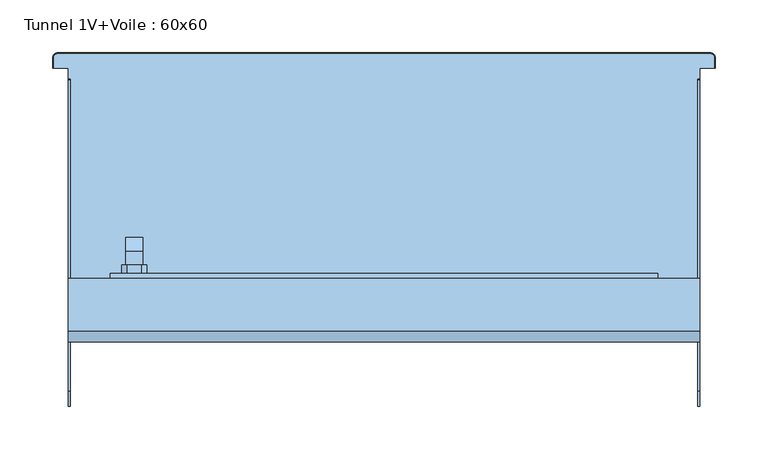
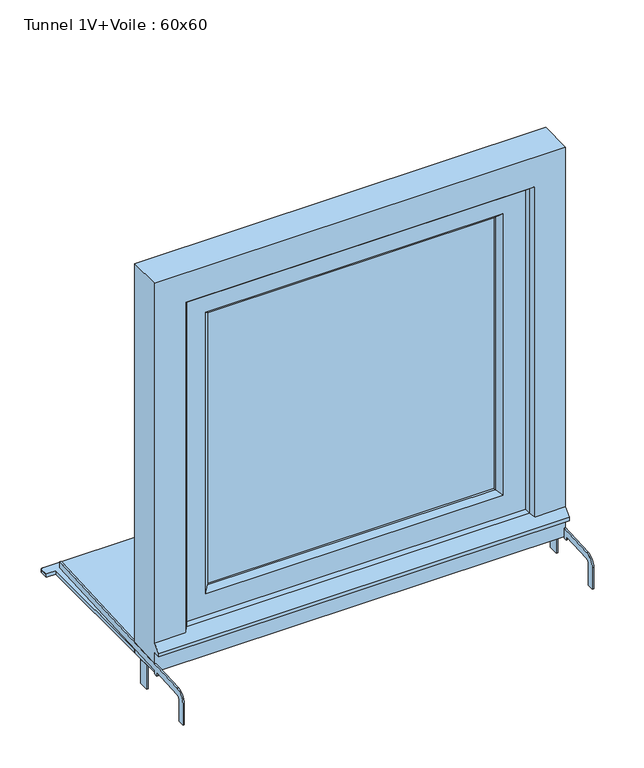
"""IFC4 building model written with IfcOpenShell, lengths in millimetres: window geometry, Tunnel 1V+Voile : 60x60."""

from ifc_helpers import new_model, si_unit, point, frame, frame_2d, origin, place, context, project, spatial, polyline, circle_curve, trimmed, segment, composite_curve, outline, extrude, faceted_brep, source, transform, mapped, element, save
from ifc_brep_helpers import plane_surface, cylinder_surface, revolved_surface, advanced_brep


def tunnel_1v_voile_60x60_87597c4a(model_context):
    return source(origin(), model_context, "Body", "SolidModel", [
        faceted_brep([(-245.5, -87.0, 1306.0), (-245.5, -87.0, 1294.0), (-229.5, -87.0, 1294.0), (-229.5, -87.0, 1306.0), (-229.5, -74.5147186, 1306.0), (-245.5, -74.5147186, 1306.0), (-229.5, -79.4852814, 1294.0), (-229.5, -73.0, 1287.5147186), (-229.5, -73.0, 1287.2282668), (-229.5, -70.2419861, 1208.5355339), (-229.5, -61.0, 1208.5355339), (-229.5, -61.0, 1292.4852814), (-245.5, -79.4852814, 1294.0), (-245.5, -61.0, 1292.4852814), (-245.5, -61.0, 1208.5355339), (-245.5, -70.2419861, 1208.5355339), (-245.5, -72.9900091, 1287.2286157), (-245.5, -73.0, 1287.5147186), (-233.0355339, -61.0, 1205.0), (-233.0355339, -70.1185225, 1205.0), (-241.9644661, -70.1185225, 1205.0), (-241.9644661, -61.0, 1205.0)], [[[0, 1, 2, 3]], [[3, 4, 5, 0]], [[2, 6, 7, 8, 9, 10, 11, 4, 3]], [[1, 12, 6, 2]], [[0, 5, 13, 14, 15, 16, 17, 12, 1]], [[4, 11, 13, 5]], [[6, 12, 17, 7]], [[18, 19, 20, 21]], [[11, 10, 18, 21, 14, 13]], [[17, 16, 8, 7]], [[16, 15, 20, 19, 9, 8]], [[9, 19, 18, 10]], [[14, 21, 20, 15]]]),
        extrude(outline(polyline([(1330.0, -244.5), (1325.0, -249.5), (1275.0, -249.5), (1270.0, -244.5), (1270.0, -230.5), (1275.0, -225.5), (1325.0, -225.5), (1330.0, -230.5), (1330.0, -244.5)])), frame((0.0, -95.0, 0.0), z_axis=(0.0, 1.0, 0.0), x_axis=(0.0, 0.0, 1.0)), (0.0, 0.0, 1.0), 8.0),
        extrude(outline(polyline([(-115.0, 799.2138833), (-115.0, 762.0), (-130.0, 762.0), (-130.0, 798.4277666), (-115.0, 799.2138833)])), frame((-300.0, 0.0, 0.0), z_axis=(1.0, 0.0, 0.0), x_axis=(0.0, 1.0, 0.0)), (0.0, 0.0, 1.0), 2.0),
        extrude(outline(polyline([(-130.0, 798.4277666), (-115.0, 799.2138833), (-115.0, 762.0), (-130.0, 762.0), (-130.0, 798.4277666)])), frame((298.0, 0.0, 0.0), z_axis=(1.0, 0.0, 0.0), x_axis=(0.0, 1.0, 0.0)), (0.0, 0.0, 1.0), 2.0),
        extrude(outline(composite_curve([segment(polyline([(-221.5, 762.0), (-221.5, 795.1063906)]), True, "CONTINUOUS"), segment(trimmed(circle_curve(frame_2d((-206.5, 795.1063906)), 15.0), [point((-221.5, 795.1063906))], [point((-207.2850393, 810.0858337))], False, "CARTESIAN"), True, "CONTINUOUS"), segment(polyline([(-207.2850393, 810.0858337), (89.4766404, 825.6384543), (90.0, 815.6521589), (-150.0, 803.0742919), (-150.0, 797.379611), (-155.0, 797.1175721), (-155.0, 802.812253), (-206.7616798, 800.0995383)]), True, "CONTINUOUS"), segment(trimmed(circle_curve(frame_2d((-206.5, 795.1063906)), 5.0), [point((-206.7616798, 800.0995383))], [point((-211.5, 795.1063906))], True, "CARTESIAN"), True, "CONTINUOUS"), segment(polyline([(-211.5, 795.1063906), (-211.5, 762.0), (-221.5, 762.0)]), True, "CONTINUOUS")], self_intersect=False)), frame((298.0, 0.0, 0.0), z_axis=(1.0, 0.0, 0.0), x_axis=(0.0, 1.0, 0.0)), (0.0, 0.0, 1.0), 2.0),
        extrude(outline(composite_curve([segment(polyline([(-155.0, 797.1175721), (-155.0, 802.812253), (-206.7616798, 800.0995383)]), True, "CONTINUOUS"), segment(trimmed(circle_curve(frame_2d((-206.5, 795.1063906)), 5.0), [point((-206.7616798, 800.0995383))], [point((-211.5, 795.1063906))], True, "CARTESIAN"), True, "CONTINUOUS"), segment(polyline([(-211.5, 795.1063906), (-211.5, 762.0), (-221.5, 762.0), (-221.5, 795.1063906)]), True, "CONTINUOUS"), segment(trimmed(circle_curve(frame_2d((-206.5, 795.1063906)), 15.0), [point((-221.5, 795.1063906))], [point((-207.2850393, 810.0858337))], False, "CARTESIAN"), True, "CONTINUOUS"), segment(polyline([(-207.2850393, 810.0858337), (89.4766404, 825.6384543), (90.0, 815.6521589), (-150.0, 803.0742919), (-150.0, 797.379611), (-155.0, 797.1175721)]), True, "CONTINUOUS")], self_intersect=False)), frame((-300.0, 0.0, 0.0), z_axis=(1.0, 0.0, 0.0), x_axis=(0.0, 1.0, 0.0)), (0.0, 0.0, 1.0), 2.0),
        extrude(outline(polyline([(-210.0, -105.0), (210.0, -105.0), (210.0, -125.0), (-210.0, -125.0), (-210.0, -105.0)])), frame((0.0, 0.0, 890.0), z_axis=(0.0, 0.0, 1.0), x_axis=(1.0, 0.0, 0.0)), (0.0, 0.0, 1.0), 420.0),
        faceted_brep([(-260.0, -95.0, 840.0), (260.0, -95.0, 840.0), (260.0, -135.0, 840.0), (-260.0, -135.0, 840.0), (260.0, -95.0, 1360.0), (260.0, -135.0, 1360.0), (-260.0, -135.0, 1360.0), (217.0710678, -135.0, 1317.0710678), (217.0710678, -135.0, 882.9289322), (-217.0710678, -135.0, 882.9289322), (-217.0710678, -135.0, 1317.0710678), (-260.0, -95.0, 1360.0), (217.0710678, -95.0, 882.9289322), (217.0710678, -95.0, 1317.0710678), (-217.0710678, -95.0, 1317.0710678), (-217.0710678, -95.0, 882.9289322), (-210.0, -102.0710678, 890.0), (210.0, -102.0710678, 890.0), (210.0, -102.0710678, 1310.0), (210.0, -127.9289322, 890.0), (210.0, -127.9289322, 1310.0), (-210.0, -127.9289322, 890.0), (-210.0, -102.0710678, 1310.0), (-210.0, -127.9289322, 1310.0)], [[[0, 1, 2, 3]], [[1, 4, 5, 2]], [[2, 5, 6, 3], [7, 8, 9, 10]], [[4, 1, 0, 11], [12, 13, 14, 15]], [[16, 17, 12, 15]], [[17, 18, 13, 12]], [[19, 20, 18, 17]], [[9, 8, 19, 21]], [[8, 7, 20, 19]], [[11, 0, 3, 6]], [[22, 16, 15, 14]], [[23, 21, 16, 22]], [[10, 9, 21, 23]], [[21, 19, 17, 16]], [[4, 11, 6, 5]], [[18, 22, 14, 13]], [[7, 10, 23, 20]], [[20, 23, 22, 18]]]),
        faceted_brep([(300.0, -150.0, 800.0), (300.0, -100.0, 800.0), (300.0, -100.0, 1400.0), (300.0, -150.0, 1400.0), (300.0, -150.0, 845.0), (300.0, -160.0, 835.0), (300.0, -160.0, 830.0), (300.0, -150.0, 830.0), (-300.0, -150.0, 830.0), (-300.0, -150.0, 800.0), (-300.0, -160.0, 830.0), (-300.0, -160.0, 835.0), (255.0, -150.0, 845.0), (250.0, -145.0, 850.0), (-250.0, -145.0, 850.0), (-255.0, -150.0, 845.0), (-300.0, -150.0, 845.0), (-300.0, -150.0, 1400.0), (-255.0, -150.0, 1355.0), (255.0, -150.0, 1355.0), (-300.0, -100.0, 800.0), (-300.0, -100.0, 1400.0), (260.0, -100.0, 840.0), (260.0, -100.0, 1360.0), (-260.0, -100.0, 1360.0), (-260.0, -100.0, 840.0), (-260.0, -135.0, 840.0), (260.0, -135.0, 840.0), (-260.0, -135.0, 1360.0), (260.0, -135.0, 1360.0), (250.0, -135.0, 850.0), (250.0, -135.0, 1350.0), (-250.0, -135.0, 1350.0), (-250.0, -135.0, 850.0), (-250.0, -145.0, 1350.0), (250.0, -145.0, 1350.0)], [[[0, 1, 2, 3, 4, 5, 6, 7]], [[7, 8, 9, 0]], [[6, 10, 8, 7]], [[5, 11, 10, 6]], [[5, 4, 12, 13, 14, 15, 16, 11]], [[17, 16, 15, 18, 19, 12, 4, 3]], [[1, 20, 21, 2], [22, 23, 24, 25]], [[0, 9, 20, 1]], [[9, 8, 10, 11, 16, 17, 21, 20]], [[25, 26, 27, 22]], [[26, 25, 24, 28]], [[22, 27, 29, 23]], [[29, 27, 26, 28], [30, 31, 32, 33]], [[33, 14, 13, 30]], [[34, 14, 33, 32]], [[31, 30, 13, 35]], [[35, 13, 12, 19]], [[18, 15, 14, 34]], [[28, 24, 23, 29]], [[3, 2, 21, 17]], [[31, 35, 34, 32]], [[18, 34, 35, 19]]]),
        advanced_brep(
        [(300.0, 100.0, 805.0), (313.9971508, 100.0, 805.0), (313.9971508, 110.0, 805.0), (310.0, 113.9971508, 805.0), (-310.0, 113.9971508, 805.0), (-313.9971508, 110.0, 805.0), (-313.9971508, 100.0, 805.0), (-300.0, 100.0, 805.0), (-300.0, -100.0, 805.0), (300.0, -100.0, 805.0), (-300.0, 100.0, 800.0), (-313.9971508, 100.0, 800.0), (-313.9971508, 110.0, 800.0), (-310.0, 113.9971508, 800.0), (310.0, 113.9971508, 800.0), (313.9971508, 110.0, 800.0), (313.9971508, 100.0, 800.0), (300.0, 100.0, 800.0), (300.0, -100.0, 800.0), (-300.0, -100.0, 800.0), (-315.0, 110.0, 801.0028492), (-315.0, 100.0, 801.0028492), (-315.0, 100.0, 803.9971508), (-315.0, 110.0, 803.9971508), (315.0, 100.0, 801.0028492), (315.0, 100.0, 803.9971508), (315.0, 110.0, 801.0028492), (315.0, 110.0, 803.9971508), (310.0, 115.0, 801.0028492), (-310.0, 115.0, 801.0028492), (-310.0, 115.0, 803.9971508), (310.0, 115.0, 803.9971508)],
        [
            (0, 1),
            (1, 2),
            (2, 3, circle_curve(frame((310.0, 110.0, 805.0), z_axis=(0.0, 0.0, 1.0), x_axis=(0.0, 1.0, 0.0)), 3.9971508)),
            (3, 4),
            (4, 5, circle_curve(frame((-310.0, 110.0, 805.0), z_axis=(0.0, 0.0, 1.0), x_axis=(-1.0, 0.0, 0.0)), 3.9971508)),
            (5, 6),
            (6, 7),
            (7, 8),
            (8, 9),
            (9, 0),
            (10, 11),
            (11, 12),
            (12, 13, circle_curve(frame((-310.0, 110.0, 800.0), z_axis=(0.0, 0.0, -1.0), x_axis=(-1.0, 0.0, 0.0)), 3.9971508)),
            (13, 14),
            (14, 15, circle_curve(frame((310.0, 110.0, 800.0), z_axis=(0.0, 0.0, -1.0), x_axis=(0.0, 1.0, 0.0)), 3.9971508)),
            (15, 16),
            (16, 17),
            (17, 18),
            (18, 19),
            (19, 10),
            (20, 21),
            (21, 22),
            (22, 23),
            (23, 20),
            (6, 22),
            (21, 11),
            (10, 7),
            (19, 8),
            (18, 9),
            (17, 0),
            (16, 24),
            (24, 25),
            (25, 1),
            (24, 26),
            (26, 27),
            (27, 25),
            (28, 29),
            (29, 30),
            (30, 31),
            (31, 28),
            (31, 27, circle_curve(frame((310.0, 110.0, 803.9971508), z_axis=(0.0, 0.0, -1.0), x_axis=(0.0, 1.0, 0.0)), 5.0)),
            (26, 28, circle_curve(frame((310.0, 110.0, 801.0028492), z_axis=(0.0, 0.0, 1.0), x_axis=(0.0, 1.0, 0.0)), 5.0)),
            (23, 30, circle_curve(frame((-310.0, 110.0, 803.9971508), z_axis=(0.0, 0.0, -1.0), x_axis=(0.0, 1.0, 0.0)), 5.0)),
            (29, 20, circle_curve(frame((-310.0, 110.0, 801.0028492), z_axis=(0.0, 0.0, 1.0), x_axis=(0.0, 1.0, 0.0)), 5.0)),
            (5, 23),
            (20, 12),
            (4, 30),
            (29, 13),
            (3, 31),
            (28, 14),
            (2, 27),
            (26, 15),
        ],
        [
            plane_surface(frame((-315.0, 100.0, 805.0), z_axis=(0.0, 0.0, 1.0), x_axis=(0.0, 1.0, 0.0))),
            plane_surface(frame((-315.0, 100.0, 800.0), z_axis=(0.0, 0.0, -1.0), x_axis=(0.0, -1.0, 0.0))),
            plane_surface(frame((-315.0, 110.0, 800.0), z_axis=(-1.0, 0.0, 0.0), x_axis=(0.0, 0.0, 1.0))),
            plane_surface(frame((-315.0, 100.0, 800.0), z_axis=(0.0, -1.0, 0.0), x_axis=(0.0, 0.0, 1.0))),
            plane_surface(frame((-300.0, 100.0, 800.0), z_axis=(-1.0, 0.0, 0.0), x_axis=(0.0, 0.0, 1.0))),
            plane_surface(frame((-300.0, -100.0, 800.0), z_axis=(0.0, -1.0, 0.0), x_axis=(0.0, 0.0, 1.0))),
            plane_surface(frame((300.0, -100.0, 800.0), z_axis=(1.0, 0.0, 0.0), x_axis=(0.0, 0.0, 1.0))),
            plane_surface(frame((300.0, 100.0, 800.0), z_axis=(0.0, -1.0, 0.0), x_axis=(0.0, 0.0, 1.0))),
            plane_surface(frame((315.0, 100.0, 800.0), z_axis=(1.0, 0.0, 0.0), x_axis=(0.0, 0.0, 1.0))),
            plane_surface(frame((310.0, 115.0, 800.0), z_axis=(0.0, 1.0, 0.0), x_axis=(0.0, 0.0, 1.0))),
            cylinder_surface(frame((310.0, 110.0, 805.0), z_axis=(0.0, 0.0, -1.0), x_axis=(0.0, 1.0, 0.0)), 5.0),
            cylinder_surface(frame((-310.0, 110.0, 805.0), z_axis=(0.0, 0.0, -1.0), x_axis=(0.0, 1.0, 0.0)), 5.0),
            plane_surface(frame((-313.9971508, 100.0, 805.0), z_axis=(-0.7071067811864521, 0.0, 0.707106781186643), x_axis=(0.0, 1.0, 0.0))),
            plane_surface(frame((-315.0, 100.0, 801.0028492), z_axis=(-0.7071067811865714, 0.0, -0.7071067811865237), x_axis=(0.0, 1.0, 0.0))),
            revolved_surface(polyline([(-315.0, 110.0, 803.9971508), (-313.9971508, 110.0, 805.0)]), (-310.0, 110.0, 805.0), (0.0, 0.0, 1.0)),
            revolved_surface(polyline([(-313.9971508, 110.0, 800.0), (-315.0, 110.0, 801.0028492)]), (-310.0, 110.0, 805.0), (0.0, 0.0, 1.0)),
            plane_surface(frame((-310.0, 113.9971508, 805.0), z_axis=(0.0, 0.7071067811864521, 0.707106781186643), x_axis=(1.0, 0.0, 0.0))),
            plane_surface(frame((-310.0, 115.0, 801.0028492), z_axis=(0.0, 0.7071067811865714, -0.7071067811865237), x_axis=(1.0, 0.0, 0.0))),
            revolved_surface(polyline([(310.0, 115.0, 803.9971508), (310.0, 113.9971508, 805.0)]), (310.0, 110.0, 805.0), (0.0, 0.0, 1.0)),
            revolved_surface(polyline([(310.0, 113.9971508, 800.0), (310.0, 115.0, 801.0028492)]), (310.0, 110.0, 805.0), (0.0, 0.0, 1.0)),
            plane_surface(frame((313.9971508, 110.0, 805.0), z_axis=(0.7071067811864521, 0.0, 0.707106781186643), x_axis=(0.0, -1.0, 0.0))),
            plane_surface(frame((315.0, 110.0, 801.0028492), z_axis=(0.7071067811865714, 0.0, -0.7071067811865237), x_axis=(0.0, -1.0, 0.0))),
        ],
        [
            (0, [[1, 2, 3, 4, 5, 6, 7, 8, 9, 10]]),
            (1, [[11, 12, 13, 14, 15, 16, 17, 18, 19, 20]]),
            (2, [[21, 22, 23, 24]]),
            (3, [[-7, 25, -22, 26, -11, 27]]),
            (4, [[-27, -20, 28, -8]]),
            (5, [[-28, -19, 29, -9]]),
            (6, [[-29, -18, 30, -10]]),
            (7, [[-17, 31, 32, 33, -1, -30]]),
            (8, [[34, 35, 36, -32]]),
            (9, [[37, 38, 39, 40]]),
            (10, [[41, -35, 42, -40]]),
            (11, [[43, -38, 44, -24]]),
            (12, [[-23, -25, -6, 45]]),
            (13, [[-12, -26, -21, 46]]),
            (14, [[-5, 47, -43, -45]]),
            (15, [[-44, 48, -13, -46]]),
            (16, [[-4, 49, -39, -47]]),
            (17, [[-37, 50, -14, -48]]),
            (18, [[-3, 51, -41, -49]]),
            (19, [[-42, 52, -15, -50]]),
            (20, [[-2, -33, -36, -51]]),
            (21, [[-34, -31, -16, -52]]),
        ],
    ),
    ])


if __name__ == "__main__":
    model = new_model("IFC4")
    model_context = context("Model", 3, world=origin())
    ifc_project = project(units=[si_unit("LENGTHUNIT", "METRE", prefix="MILLI")], contexts=[model_context])
    site = spatial("IfcSite", under=ifc_project)
    building = spatial("IfcBuilding", under=site)
    placement = place(None, origin())
    tunnel_1v_voile_60x60_shape = tunnel_1v_voile_60x60_87597c4a(model_context)
    element("IfcWindow", 1, ObjectType="Tunnel 1V+Voile : 60x60", at=placement, inside=building, context=model_context, shape_type="MappedRepresentation", body=[
        mapped(tunnel_1v_voile_60x60_shape, transform((0.0, 0.0, 0.0), x_axis=(1.0, 0.0, 0.0), y_axis=(0.0, 1.0, 0.0), z_axis=(0.0, 0.0, 1.0))),
    ])
    save(model, "model.ifc")
